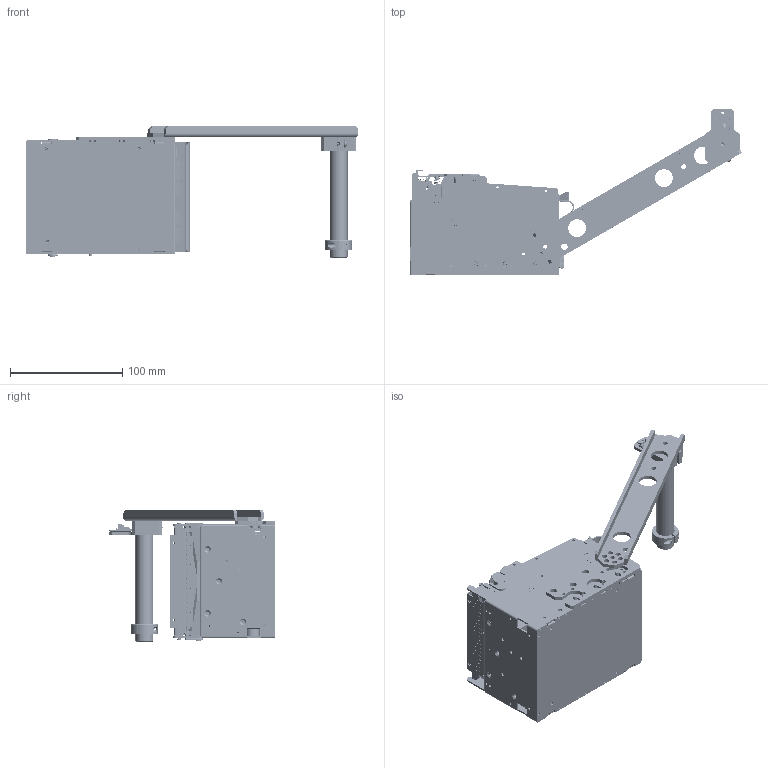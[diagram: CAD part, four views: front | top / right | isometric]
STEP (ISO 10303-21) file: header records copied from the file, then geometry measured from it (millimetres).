
FILE_DESCRIPTION (( 'STEP AP203' ), '1' );
FILE_NAME ('424127P-STD-RH.STEP', '2021-06-29T18:19:15', ( '' ), ( '' ), 'SwSTEP 2.0', 'SolidWorks 2020', '' );
FILE_SCHEMA (( 'CONFIG_CONTROL_DESIGN' ));
Length unit declared in the file: inch
Products named in the file (81): 424134P (REV a); 424068-CUT (REV D); 424127P-STD-RH; 424014-46T36T (REV A) Gear 46T36T, PlatenSHORT_54-14; NMB PM35L-024 AssemblySHORT; 424127 k46e XSHORT-new Board 12-9-19; 424118 (REV B); 424183-U-WSH (REV E); 424066-Z (REV B) Cutter Knife Spring; 424012-PG-5 (REV A) Platen Paper GuideSHORT; 423534-X1; LeeSpring-LC 020BD 05M_COMPRESS 2; 424066-X-BKT (REV G); 424127 Cutter Gear Assembly XSHORT; 424013-SHF-5 (REV A); 424014-26T (REV A) Gear 26T, PlatenSHORT_Platen; Philips Pan Head Screw 4-40 1I4 LG. SS_91772A108; SOS-440-6SHORT; No 4 -Screw Split Lock Washer_91102A720; 424151LP-UPG (REV B); 424012-BRG-1 (REV A) Platen Sleeve BearingSHORT; 97395A701SHORT_97395A701; 424128-PSTR (REV N); 424014-54T (REV A) Gear 54T, CutterSHORT_Gear Blank; 423445Z2 (REV C); SQ OPTO CBLE CNTR; Gear 36T XSHORT_Gear 36T; WASHER SCREW SIZE 4 OD .312 ID .125_98017A610; 423929 (REV D); 424078-SQ OPTO; 6-32 LG .375  SCREW RH -PH_90087A146; 424014-27T (REV A) Gear 27TSHORT_Gear-27T; NMB PM35L-024SHORT; Gear 20TSHORT_Gear 20T; LeeSpring-LC 020BD 05M_COMPRESS4; 424142 (Rev c); 424064-X-P (REV A) Platen Gear BKTSHORT; Square Opto Assembly PG; Gear 46T XSHORT_Gear 46T; 424133P (REV a)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
Assembly tree (112 placements, depth 4):
  424127P-STD-RH
    424128-PSTR (REV N)
    424129 (REV F)
    424141 (REV J)
    424140P (REV C)_taper
    424145 (REV E)
    424118 (REV B)
    424065-X-UPG (REV A)
    424013-SHF-5 (REV A)
    423445Z2 (REV C)
    424071-JST (REV D)
    424066-X-BKT (REV G)
    424066-Z (REV B) Cutter Knife Spring
    424014-27T (REV A) Gear 27TSHORT_Gear-27T
    424064-X-P (REV A) Platen Gear BKTSHORT
    424078-SQ OPTO
      423929 (REV D)
      SQ OPTO
      SQ OPTO CBLE CNTR
    424064-Z-PS (REV A) Platen Gear BKT SpacerSHORT  x3
    424133P (REV a)
      424151LP-UPG (REV B)
      424137LP-UPG (REV C)_424107P-3D
    424142 (Rev c)
      423496-Z (REV G)
      424143 (REV H)
      424068-CUT (REV D)
      423496-Z-SP (REV D)_94639A496
      424013-SHF-1 (REV A) Print Head Assy Shaft
      423456Z2 (REV A) Fixed Blade
      Printhead-KD2003-DF10A
      91500A120_TYPE 316 SS FLAT HEAD PHILLIPS MACHINE SCREW_91500A120  x3
      Philips Pan Head Screw 4-40 1I4 LG. SS_91772A108
      WASHER SCREW SIZE 4 OD .312 ID .125_98017A610
      LeeSpring-LC 020BD 05M_COMPRESS4  x3
      LeeSpring-LC 020BD 05M_COMPRESS 2
      No 4 -Screw Split Lock Washer_91102A720
    424127 Cutter Gear Assembly XSHORT
      424064-X-UPG (REV F)
      NMB PM35L-024 AssemblySHORT
        NMB PM35L-024SHORT
        Gear 12T, MotorSHORT_Gear Blank
      424014-54TXT (REV A) Gear 54TXTSHORT_54-26C
        Gear 54TSHORT_Gear Blank
        424014-26T (REV A) Gear 26T, Platen_54T X 26T, Cutter
      424014-54T (REV A) Gear 54T, CutterSHORT_Gear Blank
      97395A701SHORT_97395A701
    Platen Assembly XSHORT
      424012-PG-5 (REV A) Platen Paper GuideSHORT
      423760-L3B-Z (REV A) Lemur-Z PlatenSHORT
      424014-26T (REV A) Gear 26T, PlatenSHORT_Platen
      424012-BRG-1 (REV A) Platen Sleeve BearingSHORT  x2
    424127 k46e XSHORT-new Board 12-9-19
      424132 (REV E)
      k46eSHORT-new board-12-9-19
      SOS-440-6SHORT  x3
    NMB PM35L-024 AssemblySHORT
      NMB PM35L-024SHORT
      Gear 12T, MotorSHORT_Gear Blank
    424014-60T20T (REV A) Gear 60T20T, PlatenSHORT_54-14
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Bounding box: 296.33 x 148.59 x 117.47 mm (x, y, z)
Volume: 323839.1 mm3; surface area: 339474.7 mm2
Topology: 162 solids, 166 shells, 12762 faces, 34082 edges, 21857 vertices
Faces by surface type: plane 7140, cylinder 3123, bspline 1787, cone 361, torus 195, sphere 156
Entity records: 439277 total; most frequent: CARTESIAN_POINT 139524, ORIENTED_EDGE 63936, DIRECTION 54527, EDGE_CURVE 32008, VECTOR 21705, LINE 21705, VERTEX_POINT 20593, AXIS2_PLACEMENT_3D 16411
